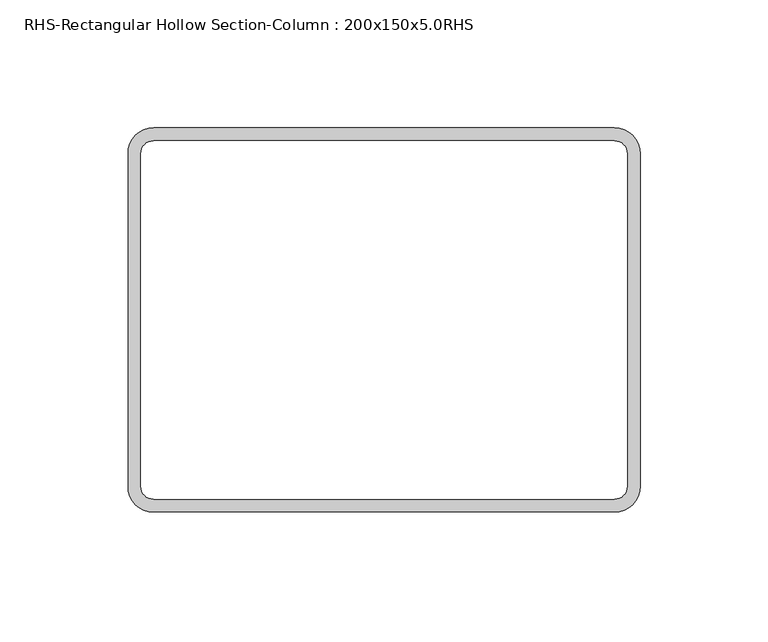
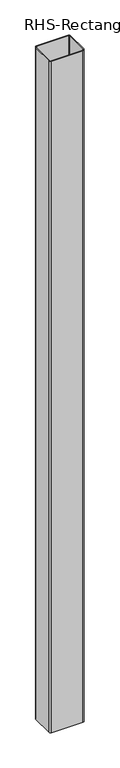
"""IFC4 building model written with IfcOpenShell, lengths in millimetres: column geometry, RHS-Rectangular Hollow Section-Column : 200x150x5.0RHS."""

from ifc_helpers import new_model, si_unit, point, frame, frame_2d, origin, place, context, project, spatial, polyline, circle_curve, trimmed, segment, composite_curve, outline, extrude, source, transform, mapped, element, save


def rhs_rectangular_hollow_section_column_200x150x5_0rhs_88d97f1c(model_context):
    return source(origin(), model_context, "Body", "SweptSolid", [
        extrude(outline(composite_curve([segment(trimmed(circle_curve(frame_2d((90.0, 65.0)), 10.0), [point((90.0, 75.0))], [point((100.0, 65.0))], False, "CARTESIAN"), True, "CONTINUOUS"), segment(polyline([(100.0, 65.0), (100.0, -65.0)]), True, "CONTINUOUS"), segment(trimmed(circle_curve(frame_2d((90.0, -65.0)), 10.0), [point((100.0, -65.0))], [point((90.0, -75.0))], False, "CARTESIAN"), True, "CONTINUOUS"), segment(polyline([(90.0, -75.0), (-90.0, -75.0)]), True, "CONTINUOUS"), segment(trimmed(circle_curve(frame_2d((-90.0, -65.0)), 10.0), [point((-90.0, -75.0))], [point((-100.0, -65.0))], False, "CARTESIAN"), True, "CONTINUOUS"), segment(polyline([(-100.0, -65.0), (-100.0, 65.0)]), True, "CONTINUOUS"), segment(trimmed(circle_curve(frame_2d((-90.0, 65.0)), 10.0), [point((-100.0, 65.0))], [point((-90.0, 75.0))], False, "CARTESIAN"), True, "CONTINUOUS"), segment(polyline([(-90.0, 75.0), (90.0, 75.0)]), True, "CONTINUOUS")], self_intersect=False), holes=[composite_curve([segment(polyline([(90.0, 70.0), (-90.0, 70.0)]), True, "CONTINUOUS"), segment(trimmed(circle_curve(frame_2d((-90.0, 65.0)), 5.0), [point((-90.0, 70.0))], [point((-95.0, 65.0))], True, "CARTESIAN"), True, "CONTINUOUS"), segment(polyline([(-95.0, 65.0), (-95.0, -65.0)]), True, "CONTINUOUS"), segment(trimmed(circle_curve(frame_2d((-90.0, -65.0)), 5.0), [point((-95.0, -65.0))], [point((-90.0, -70.0))], True, "CARTESIAN"), True, "CONTINUOUS"), segment(polyline([(-90.0, -70.0), (90.0, -70.0)]), True, "CONTINUOUS"), segment(trimmed(circle_curve(frame_2d((90.0, -65.0)), 5.0), [point((90.0, -70.0))], [point((95.0, -65.0))], True, "CARTESIAN"), True, "CONTINUOUS"), segment(polyline([(95.0, -65.0), (95.0, 65.0)]), True, "CONTINUOUS"), segment(trimmed(circle_curve(frame_2d((90.0, 65.0)), 5.0), [point((95.0, 65.0))], [point((90.0, 70.0))], True, "CARTESIAN"), True, "CONTINUOUS")], self_intersect=False)]), frame((0.0, 0.0, 25860.0), z_axis=(0.0, 0.0, 1.0), x_axis=(1.0, 0.0, 0.0)), (0.0, 0.0, 1.0), 4050.0),
    ])


if __name__ == "__main__":
    model = new_model("IFC4")
    model_context = context("Model", 3, world=origin())
    ifc_project = project(units=[si_unit("LENGTHUNIT", "METRE", prefix="MILLI")], contexts=[model_context])
    site = spatial("IfcSite", under=ifc_project)
    building = spatial("IfcBuilding", under=site)
    placement = place(None, origin())
    rhs_rectangular_hollow_section_column_200x150x5_0rhs_shape = rhs_rectangular_hollow_section_column_200x150x5_0rhs_88d97f1c(model_context)
    element("IfcColumn", 1, ObjectType="RHS-Rectangular Hollow Section-Column : 200x150x5.0RHS", at=placement, inside=building, context=model_context, shape_type="MappedRepresentation", body=[
        mapped(rhs_rectangular_hollow_section_column_200x150x5_0rhs_shape, transform((0.0, 0.0, 0.0), x_axis=(1.0, 0.0, 0.0), y_axis=(0.0, 1.0, 0.0), z_axis=(0.0, 0.0, 1.0))),
    ])
    save(model, "model.ifc")
